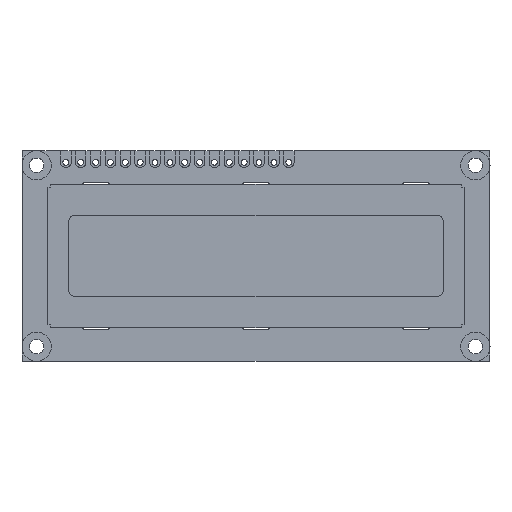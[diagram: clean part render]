
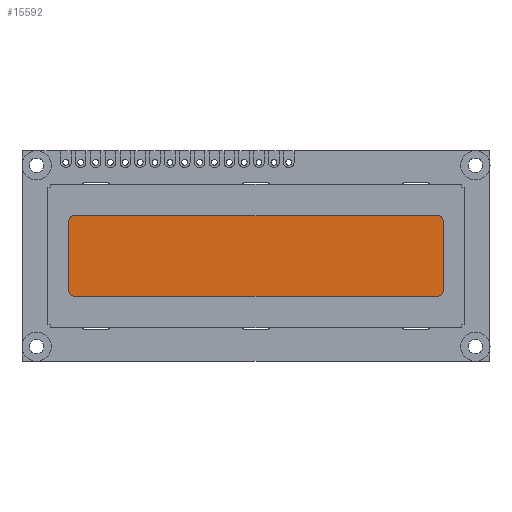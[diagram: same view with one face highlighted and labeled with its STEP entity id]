
A CAD part, top view. The second image highlights one B-rep face of the part: STEP entity #15592.
In plain terms, the highlighted planar face has unit normal (0, 0, 1).
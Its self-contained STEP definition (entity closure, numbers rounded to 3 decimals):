
#707 = CARTESIAN_POINT ( 'NONE',  ( 31., -6.9, 5.9 ) ) ;
#754 = CARTESIAN_POINT ( 'NONE',  ( -31., -5.9, 5.9 ) ) ;
#755 = CARTESIAN_POINT ( 'NONE',  ( -31., -6.9, 5.9 ) ) ;
#770 = VERTEX_POINT ( 'NONE', #14918 ) ;
#1206 = CIRCLE ( 'NONE', #5868, 1. ) ;
#1222 = EDGE_CURVE ( 'NONE', #9303, #770, #2420, .T. ) ;
#1310 = CARTESIAN_POINT ( 'NONE',  ( -31., 6.9, 5.9 ) ) ;
#1544 = VERTEX_POINT ( 'NONE', #3896 ) ;
#1576 = DIRECTION ( 'NONE',  ( 0., 1., 0. ) ) ;
#1625 = EDGE_CURVE ( 'NONE', #1544, #9303, #1206, .T. ) ;
#1693 = ORIENTED_EDGE ( 'NONE', *, *, #15891, .T. ) ;
#2040 = DIRECTION ( 'NONE',  ( 1., 0., 0. ) ) ;
#2420 = LINE ( 'NONE', #9729, #15281 ) ;
#2588 = EDGE_CURVE ( 'NONE', #15037, #1544, #9558, .T. ) ;
#2931 = VECTOR ( 'NONE', #3685, 1000. ) ;
#3018 = DIRECTION ( 'NONE',  ( 0., 0., 1. ) ) ;
#3105 = CIRCLE ( 'NONE', #11382, 1. ) ;
#3685 = DIRECTION ( 'NONE',  ( -1., 0., 0. ) ) ;
#3696 = DIRECTION ( 'NONE',  ( 0., 0., 1. ) ) ;
#3896 = CARTESIAN_POINT ( 'NONE',  ( -31., 6.9, 5.9 ) ) ;
#3897 = DIRECTION ( 'NONE',  ( 0., 0., 1. ) ) ;
#3935 = VECTOR ( 'NONE', #1576, 1000. ) ;
#3942 = AXIS2_PLACEMENT_3D ( 'NONE', #10484, #3018, #11725 ) ;
#4382 = EDGE_CURVE ( 'NONE', #10497, #15037, #3105, .T. ) ;
#4521 = ORIENTED_EDGE ( 'NONE', *, *, #2588, .T. ) ;
#5084 = VECTOR ( 'NONE', #14584, 1000. ) ;
#5222 = DIRECTION ( 'NONE',  ( 0., -1., 0. ) ) ;
#5472 = LINE ( 'NONE', #755, #5084 ) ;
#5632 = EDGE_LOOP ( 'NONE', ( #1693, #12932, #15772, #4521, #8102, #5736, #8452, #13336 ) ) ;
#5736 = ORIENTED_EDGE ( 'NONE', *, *, #1222, .T. ) ;
#5868 = AXIS2_PLACEMENT_3D ( 'NONE', #9345, #11822, #12037 ) ;
#5951 = CARTESIAN_POINT ( 'NONE',  ( 32., -5.9, 5.9 ) ) ;
#6049 = PLANE ( 'NONE',  #15438 ) ;
#6664 = AXIS2_PLACEMENT_3D ( 'NONE', #754, #9520, #2040 ) ;
#6706 = EDGE_CURVE ( 'NONE', #13778, #10497, #10596, .T. ) ;
#8102 = ORIENTED_EDGE ( 'NONE', *, *, #1625, .T. ) ;
#8452 = ORIENTED_EDGE ( 'NONE', *, *, #11768, .T. ) ;
#9064 = CARTESIAN_POINT ( 'NONE',  ( 32., 5.9, 5.9 ) ) ;
#9303 = VERTEX_POINT ( 'NONE', #13394 ) ;
#9345 = CARTESIAN_POINT ( 'NONE',  ( -31., 5.9, 5.9 ) ) ;
#9520 = DIRECTION ( 'NONE',  ( 0., 0., 1. ) ) ;
#9558 = LINE ( 'NONE', #1310, #2931 ) ;
#9729 = CARTESIAN_POINT ( 'NONE',  ( -32., 5.9, 5.9 ) ) ;
#9993 = EDGE_CURVE ( 'NONE', #10242, #13155, #5472, .T. ) ;
#10242 = VERTEX_POINT ( 'NONE', #15155 ) ;
#10484 = CARTESIAN_POINT ( 'NONE',  ( 31., -5.9, 5.9 ) ) ;
#10497 = VERTEX_POINT ( 'NONE', #11934 ) ;
#10596 = LINE ( 'NONE', #9064, #3935 ) ;
#11211 = CARTESIAN_POINT ( 'NONE',  ( 31., -5.9, 5.9 ) ) ;
#11382 = AXIS2_PLACEMENT_3D ( 'NONE', #11402, #3897, #12655 ) ;
#11402 = CARTESIAN_POINT ( 'NONE',  ( 31., 5.9, 5.9 ) ) ;
#11725 = DIRECTION ( 'NONE',  ( 1., 0., 0. ) ) ;
#11768 = EDGE_CURVE ( 'NONE', #770, #10242, #15705, .T. ) ;
#11822 = DIRECTION ( 'NONE',  ( 0., 0., 1. ) ) ;
#11934 = CARTESIAN_POINT ( 'NONE',  ( 32., 5.9, 5.9 ) ) ;
#12037 = DIRECTION ( 'NONE',  ( 1., 0., 0. ) ) ;
#12365 = CIRCLE ( 'NONE', #3942, 1. ) ;
#12451 = DIRECTION ( 'NONE',  ( 1., 0., 0. ) ) ;
#12655 = DIRECTION ( 'NONE',  ( -1., 0., 0. ) ) ;
#12932 = ORIENTED_EDGE ( 'NONE', *, *, #6706, .T. ) ;
#13155 = VERTEX_POINT ( 'NONE', #707 ) ;
#13336 = ORIENTED_EDGE ( 'NONE', *, *, #9993, .T. ) ;
#13394 = CARTESIAN_POINT ( 'NONE',  ( -32., 5.9, 5.9 ) ) ;
#13675 = CARTESIAN_POINT ( 'NONE',  ( 31., 6.9, 5.9 ) ) ;
#13778 = VERTEX_POINT ( 'NONE', #5951 ) ;
#14354 = FACE_OUTER_BOUND ( 'NONE', #5632, .T. ) ;
#14584 = DIRECTION ( 'NONE',  ( 1., 0., 0. ) ) ;
#14918 = CARTESIAN_POINT ( 'NONE',  ( -32., -5.9, 5.9 ) ) ;
#15037 = VERTEX_POINT ( 'NONE', #13675 ) ;
#15155 = CARTESIAN_POINT ( 'NONE',  ( -31., -6.9, 5.9 ) ) ;
#15281 = VECTOR ( 'NONE', #5222, 1000. ) ;
#15438 = AXIS2_PLACEMENT_3D ( 'NONE', #11211, #3696, #12451 ) ;
#15592 = ADVANCED_FACE ( 'NONE', ( #14354 ), #6049, .T. ) ;
#15705 = CIRCLE ( 'NONE', #6664, 1. ) ;
#15772 = ORIENTED_EDGE ( 'NONE', *, *, #4382, .T. ) ;
#15891 = EDGE_CURVE ( 'NONE', #13155, #13778, #12365, .T. ) ;
